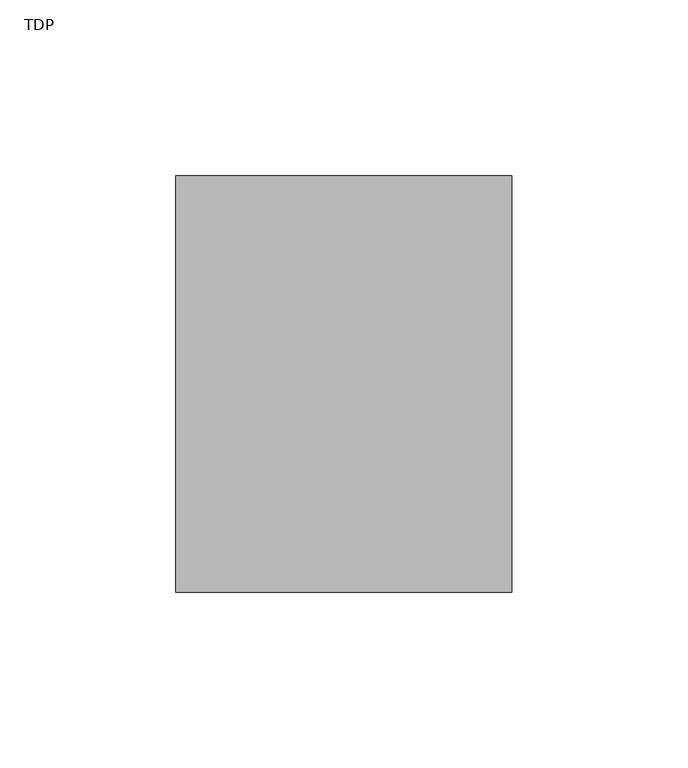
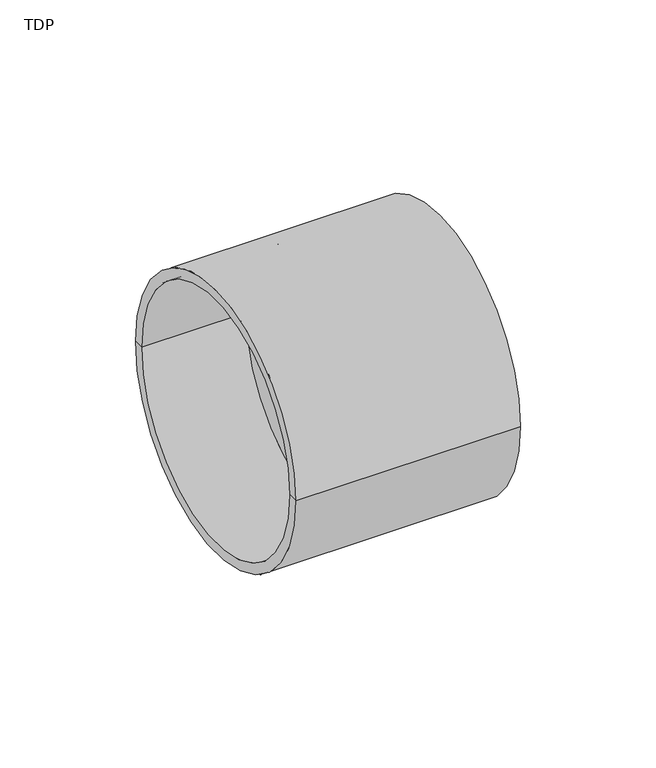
"""IFC4 building model written with IfcOpenShell, lengths in millimetres: cable carrier fitting geometry, PavcoWavin_ConduitFittings_Union : TDP."""

from ifc_helpers import new_model, si_unit, frame, origin, place, context, project, spatial, polyline, circle_curve, source, transform, mapped, element, save
from ifc_brep_helpers import plane_surface, cylinder_surface, revolved_surface, advanced_brep


def tdp_cfcb37cc(model_context):
    return source(origin(), model_context, "Body", "AdvancedBrep", [
        advanced_brep(
        [(-3.14, 0.0, 0.0), (-3.14, 54.8, 0.0), (-3.14, -54.8, 0.0), (3.14, -54.8, 0.0), (3.14, 54.8, 0.0), (3.14, 0.0, 0.0), (47.8, -54.8, 0.0), (47.8, 54.8, 0.0), (47.8, -59.2, 0.0), (47.8, 59.2, 0.0), (-47.8, -59.2, 0.0), (-47.8, 59.2, 0.0), (-47.8, -54.8, 0.0), (-47.8, 54.8, 0.0)],
        [
            (0, 1),
            (1, 2, circle_curve(frame((-3.14, 0.0, 0.0), z_axis=(-1.0, 0.0, 0.0), x_axis=(0.0, 1.0, 0.0)), 54.8)),
            (2, 0),
            (2, 1, circle_curve(frame((-3.14, 0.0, 0.0), z_axis=(-1.0, 0.0, 0.0), x_axis=(0.0, 1.0, 0.0)), 54.8)),
            (3, 4, circle_curve(frame((3.14, 0.0, 0.0), z_axis=(1.0, 0.0, 0.0), x_axis=(0.0, 1.0, 0.0)), 54.8)),
            (4, 5),
            (5, 3),
            (4, 3, circle_curve(frame((3.14, 0.0, 0.0), z_axis=(1.0, 0.0, 0.0), x_axis=(0.0, 1.0, 0.0)), 54.8)),
            (6, 7, circle_curve(frame((47.8, 0.0, 0.0), z_axis=(1.0, 0.0, 0.0), x_axis=(0.0, 1.0, 0.0)), 54.8)),
            (7, 4),
            (3, 6),
            (7, 6, circle_curve(frame((47.8, 0.0, 0.0), z_axis=(1.0, 0.0, 0.0), x_axis=(0.0, 1.0, 0.0)), 54.8)),
            (8, 9, circle_curve(frame((47.8, 0.0, 0.0), z_axis=(1.0, 0.0, 0.0), x_axis=(0.0, 1.0, 0.0)), 59.2)),
            (9, 7),
            (6, 8),
            (9, 8, circle_curve(frame((47.8, 0.0, 0.0), z_axis=(1.0, 0.0, 0.0), x_axis=(0.0, 1.0, 0.0)), 59.2)),
            (10, 11, circle_curve(frame((-47.8, 0.0, 0.0), z_axis=(1.0, 0.0, 0.0), x_axis=(0.0, 1.0, 0.0)), 59.2)),
            (11, 9),
            (8, 10),
            (11, 10, circle_curve(frame((-47.8, 0.0, 0.0), z_axis=(1.0, 0.0, 0.0), x_axis=(0.0, 1.0, 0.0)), 59.2)),
            (12, 13, circle_curve(frame((-47.8, 0.0, 0.0), z_axis=(1.0, 0.0, 0.0), x_axis=(0.0, 1.0, 0.0)), 54.8)),
            (13, 11),
            (10, 12),
            (13, 12, circle_curve(frame((-47.8, 0.0, 0.0), z_axis=(1.0, 0.0, 0.0), x_axis=(0.0, 1.0, 0.0)), 54.8)),
            (1, 13),
            (12, 2),
        ],
        [
            plane_surface(frame((-3.14, 0.0, 0.0), z_axis=(-1.0, 0.0, 0.0), x_axis=(0.0, 1.0, 0.0))),
            plane_surface(frame((3.14, 0.0, 0.0), z_axis=(1.0, 0.0, 0.0), x_axis=(0.0, 1.0, 0.0))),
            revolved_surface(polyline([(3.1400000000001, 54.8, 0.0), (47.799999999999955, 54.8, 0.0)]), (2027.16, 0.0, 0.0), (-1.0, 0.0, 0.0)),
            plane_surface(frame((47.8, 0.0, 0.0), z_axis=(1.0, 0.0, 0.0), x_axis=(0.0, 1.0, 0.0))),
            cylinder_surface(frame((2027.16, 0.0, 0.0), z_axis=(-1.0, 0.0, 0.0), x_axis=(0.0, 1.0, 0.0)), 59.2),
            plane_surface(frame((-47.8, 0.0, 0.0), z_axis=(-1.0, 0.0, 0.0), x_axis=(0.0, 1.0, 0.0))),
            revolved_surface(polyline([(-47.799999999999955, 54.8, 0.0), (-3.1400000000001, 54.8, 0.0)]), (2027.16, 0.0, 0.0), (-1.0, 0.0, 0.0)),
        ],
        [
            (0, [[1, 2, 3]]),
            (0, [[-3, 4, -1]]),
            (1, [[5, 6, 7]]),
            (1, [[8, -7, -6]]),
            (2, [[9, 10, -5, 11]]),
            (2, [[12, -11, -8, -10]]),
            (3, [[13, 14, -9, 15]]),
            (3, [[16, -15, -12, -14]]),
            (4, [[17, 18, -13, 19]]),
            (4, [[20, -19, -16, -18]]),
            (5, [[21, 22, -17, 23]]),
            (5, [[24, -23, -20, -22]]),
            (6, [[-2, 25, -21, 26]]),
            (6, [[-4, -26, -24, -25]]),
        ],
    ),
    ])


if __name__ == "__main__":
    model = new_model("IFC4")
    model_context = context("Model", 3, world=origin())
    ifc_project = project(units=[si_unit("LENGTHUNIT", "METRE", prefix="MILLI")], contexts=[model_context])
    site = spatial("IfcSite", under=ifc_project)
    building = spatial("IfcBuilding", under=site)
    placement = place(None, origin())
    tdp_shape = tdp_cfcb37cc(model_context)
    element("IfcCableCarrierFitting", 1, ObjectType="PavcoWavin_ConduitFittings_Union : TDP", at=placement, inside=building, context=model_context, shape_type="MappedRepresentation", body=[
        mapped(tdp_shape, transform((0.0, 0.0, 0.0), x_axis=(1.0, 0.0, 0.0), y_axis=(0.0, 1.0, 0.0), z_axis=(0.0, 0.0, 1.0))),
    ])
    save(model, "model.ifc")
